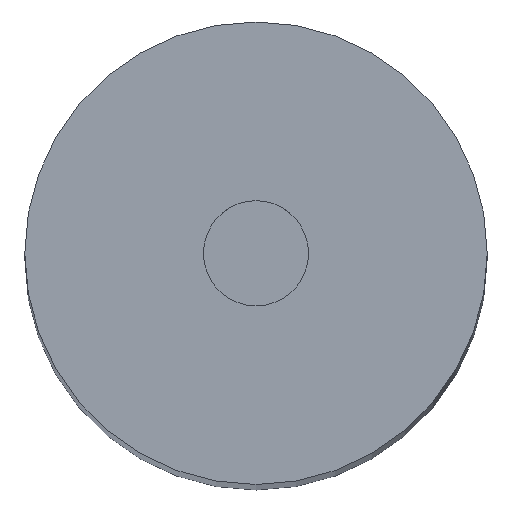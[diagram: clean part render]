
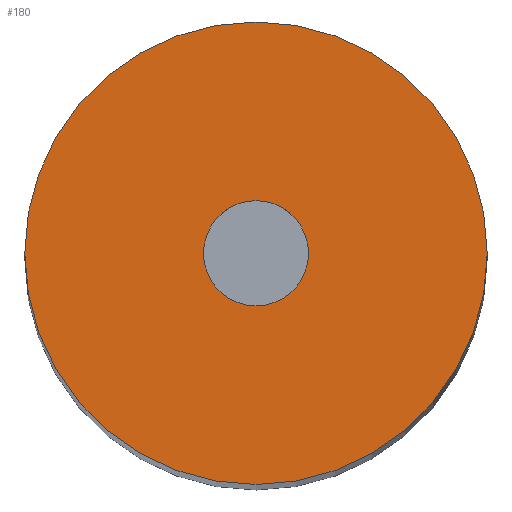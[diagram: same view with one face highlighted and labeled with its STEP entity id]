
A CAD part, top view. The second image highlights one B-rep face of the part: STEP entity #180.
In plain terms, the highlighted planar face has unit normal (0, 0, 1) as drawn and (-1, 0, 0) by its records, which use the part's own axes.
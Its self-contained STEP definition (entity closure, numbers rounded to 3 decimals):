
#22 = CARTESIAN_POINT ( 'NONE',  ( 0., 0., -0.5 ) ) ;
#28 = EDGE_LOOP ( 'NONE', ( #151, #153 ) ) ;
#44 = VERTEX_POINT ( 'NONE', #22 ) ;
#55 = EDGE_CURVE ( 'NONE', #56, #44, #209, .T. ) ;
#56 = VERTEX_POINT ( 'NONE', #386 ) ;
#151 = ORIENTED_EDGE ( 'NONE', *, *, #152, .F. ) ;
#152 = EDGE_CURVE ( 'NONE', #177, #174, #335, .T. ) ;
#153 = ORIENTED_EDGE ( 'NONE', *, *, #176, .F. ) ;
#154 = EDGE_LOOP ( 'NONE', ( #155, #156 ) ) ;
#155 = ORIENTED_EDGE ( 'NONE', *, *, #55, .T. ) ;
#156 = ORIENTED_EDGE ( 'NONE', *, *, #157, .T. ) ;
#157 = EDGE_CURVE ( 'NONE', #44, #56, #329, .T. ) ;
#174 = VERTEX_POINT ( 'NONE', #289 ) ;
#176 = EDGE_CURVE ( 'NONE', #174, #177, #288, .T. ) ;
#177 = VERTEX_POINT ( 'NONE', #283 ) ;
#180 = ADVANCED_FACE ( 'NONE', ( #278, #277 ), #276, .F. ) ;
#209 = CIRCLE ( 'NONE', #237, 0.5 ) ;
#234 = DIRECTION ( 'NONE',  ( 0., 0., -1. ) ) ;
#235 = DIRECTION ( 'NONE',  ( 1., 0., 0. ) ) ;
#236 = CARTESIAN_POINT ( 'NONE',  ( 0., 0., 0. ) ) ;
#237 = AXIS2_PLACEMENT_3D ( 'NONE', #236, #235, #234 ) ;
#272 = DIRECTION ( 'NONE',  ( 0., 0., -1. ) ) ;
#273 = DIRECTION ( 'NONE',  ( 1., 0., 0. ) ) ;
#274 = CARTESIAN_POINT ( 'NONE',  ( 0., 0., 0. ) ) ;
#275 = AXIS2_PLACEMENT_3D ( 'NONE', #274, #273, #272 ) ;
#276 = PLANE ( 'NONE',  #275 ) ;
#277 = FACE_BOUND ( 'NONE', #154, .T. ) ;
#278 = FACE_OUTER_BOUND ( 'NONE', #28, .T. ) ;
#283 = CARTESIAN_POINT ( 'NONE',  ( 0., 0., 2.2 ) ) ;
#284 = DIRECTION ( 'NONE',  ( 0., 0., -1. ) ) ;
#285 = DIRECTION ( 'NONE',  ( 1., 0., 0. ) ) ;
#286 = CARTESIAN_POINT ( 'NONE',  ( 0., 0., 0. ) ) ;
#287 = AXIS2_PLACEMENT_3D ( 'NONE', #286, #285, #284 ) ;
#288 = CIRCLE ( 'NONE', #287, 2.2 ) ;
#289 = CARTESIAN_POINT ( 'NONE',  ( 0., 0., -2.2 ) ) ;
#325 = DIRECTION ( 'NONE',  ( 0., 0., -1. ) ) ;
#326 = DIRECTION ( 'NONE',  ( 1., 0., 0. ) ) ;
#327 = CARTESIAN_POINT ( 'NONE',  ( 0., 0., 0. ) ) ;
#328 = AXIS2_PLACEMENT_3D ( 'NONE', #327, #326, #325 ) ;
#329 = CIRCLE ( 'NONE', #328, 0.5 ) ;
#331 = DIRECTION ( 'NONE',  ( 0., 0., -1. ) ) ;
#332 = DIRECTION ( 'NONE',  ( 1., 0., 0. ) ) ;
#333 = CARTESIAN_POINT ( 'NONE',  ( 0., 0., 0. ) ) ;
#334 = AXIS2_PLACEMENT_3D ( 'NONE', #333, #332, #331 ) ;
#335 = CIRCLE ( 'NONE', #334, 2.2 ) ;
#386 = CARTESIAN_POINT ( 'NONE',  ( 0., 0., 0.5 ) ) ;
